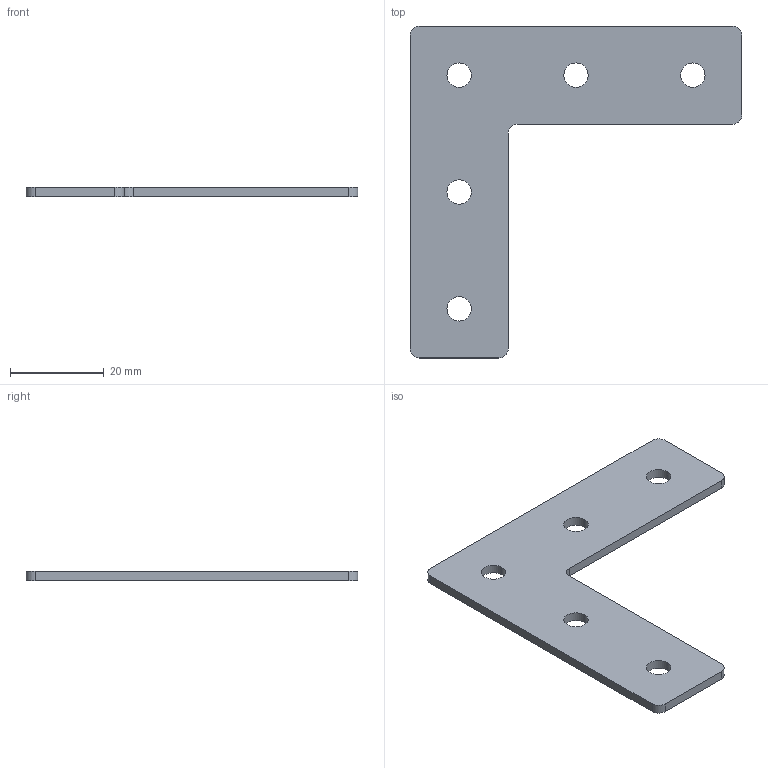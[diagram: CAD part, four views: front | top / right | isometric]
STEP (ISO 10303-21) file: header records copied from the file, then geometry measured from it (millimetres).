
FILE_DESCRIPTION (( 'STEP AP214' ), '1' );
FILE_NAME ('Ã-5-25.STEP', '2021-10-25T11:19:03', ( 'Home' ), ( '' ), 'SwSTEP 2.0', 'SolidWorks 2020', '' );
FILE_SCHEMA (( 'AUTOMOTIVE_DESIGN' ));
Length unit declared in the file: millimetre
Products named in the file (1): ﾃ-5-25
Bounding box: 71 x 71 x 2 mm (x, y, z)
Volume: 4862.8 mm3; surface area: 5583.8 mm2
Topology: 1 solids, 1 shells, 24 faces, 66 edges, 44 vertices
Faces by surface type: cylinder 16, plane 8
Entity records: 836 total; most frequent: DIRECTION 148, CARTESIAN_POINT 135, ORIENTED_EDGE 132, EDGE_CURVE 66, AXIS2_PLACEMENT_3D 57, VERTEX_POINT 44, LINE 34, VECTOR 34
